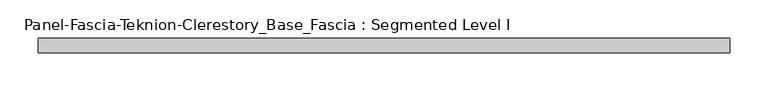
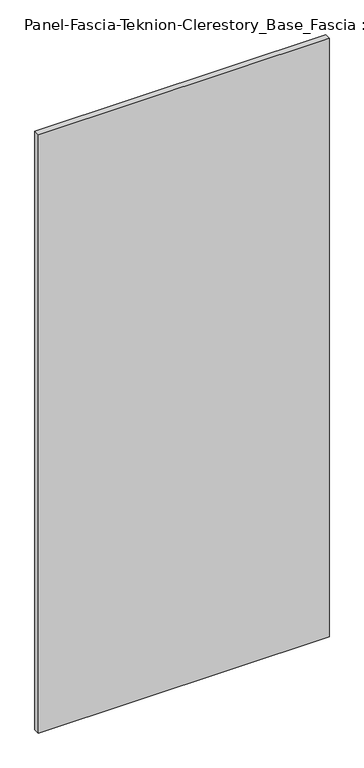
"""IFC4 building model written with IfcOpenShell, lengths in millimetres: proxy geometry, Panel-Fascia-Teknion-Clerestory_Base_Fascia : Segmented Level I."""

from ifc_helpers import new_model, si_unit, frame, origin, place, context, project, spatial, polyline, outline, extrude, source, transform, mapped, element, save


def panel_fascia_teknion_clerestory_base_fascia_segmented_level_bd308c10(model_context):
    return source(origin(), model_context, "Body", "SweptSolid", [
        extrude(outline(polyline([(454.6147563, 9.525), (454.6147563, -9.525), (-454.6147562, -9.525), (-454.6147562, 9.525), (454.6147563, 9.525)])), frame((0.0, 0.0, 3.175), z_axis=(0.0, 0.0, 1.0), x_axis=(1.0, 0.0, 0.0)), (0.0, 0.0, 1.0), 1979.168),
    ])


if __name__ == "__main__":
    model = new_model("IFC4")
    model_context = context("Model", 3, world=origin())
    ifc_project = project(units=[si_unit("LENGTHUNIT", "METRE", prefix="MILLI")], contexts=[model_context])
    site = spatial("IfcSite", under=ifc_project)
    building = spatial("IfcBuilding", under=site)
    placement = place(None, origin())
    panel_fascia_teknion_clerestory_base_fascia_segmented_level_shape = panel_fascia_teknion_clerestory_base_fascia_segmented_level_bd308c10(model_context)
    element("IfcBuildingElementProxy", 1, Name="Panel-Fascia-Teknion-Clerestory_Base_Fascia : Segmented Level I", ObjectType="Panel-Fascia-Teknion-Clerestory_Base_Fascia : Segmented Level I", at=placement, inside=building, context=model_context, shape_type="MappedRepresentation", body=[
        mapped(panel_fascia_teknion_clerestory_base_fascia_segmented_level_shape, transform((0.0, 0.0, 0.0), x_axis=(1.0, 0.0, 0.0), y_axis=(0.0, 1.0, 0.0), z_axis=(0.0, 0.0, 1.0))),
    ])
    save(model, "model.ifc")
